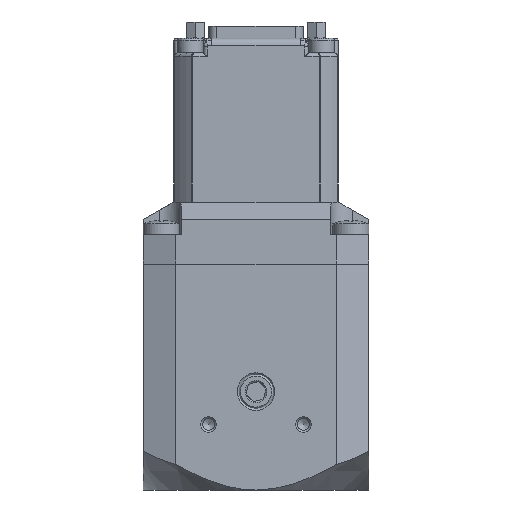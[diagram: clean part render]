
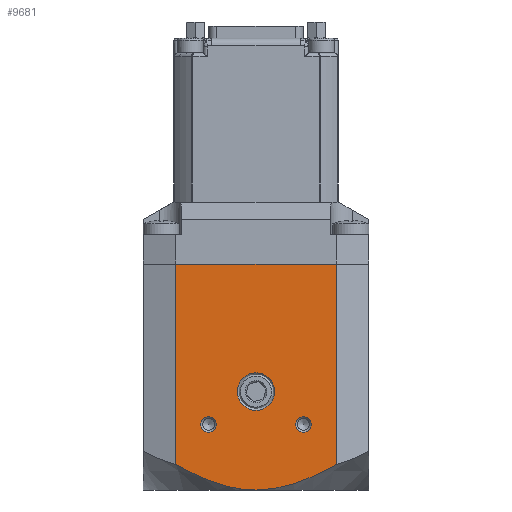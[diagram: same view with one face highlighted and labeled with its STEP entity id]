
A CAD part, front view. The second image highlights one B-rep face of the part: STEP entity #9681.
In plain terms, the highlighted planar face has unit normal (0, -1, 0).
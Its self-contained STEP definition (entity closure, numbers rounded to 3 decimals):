
#113=(
BOUNDED_CURVE()
B_SPLINE_CURVE(2,(#15410,#15411,#15412),.UNSPECIFIED.,.F.,.F.)
B_SPLINE_CURVE_WITH_KNOTS((3,3),(1.772,4.577),
 .UNSPECIFIED.)
CURVE()
GEOMETRIC_REPRESENTATION_ITEM()
RATIONAL_B_SPLINE_CURVE((1.071,1.092,1.))
REPRESENTATION_ITEM('')
);
#114=(
BOUNDED_CURVE()
B_SPLINE_CURVE(2,(#15414,#15415,#15416),.UNSPECIFIED.,.F.,.F.)
B_SPLINE_CURVE_WITH_KNOTS((3,3),(4.577,7.382),
 .UNSPECIFIED.)
CURVE()
GEOMETRIC_REPRESENTATION_ITEM()
RATIONAL_B_SPLINE_CURVE((1.,1.092,1.071))
REPRESENTATION_ITEM('')
);
#214=FACE_BOUND('',#2240,.T.);
#215=FACE_BOUND('',#2241,.T.);
#216=FACE_BOUND('',#2242,.T.);
#454=CIRCLE('',#10435,5.15);
#455=CIRCLE('',#10436,5.15);
#456=CIRCLE('',#10437,2.15);
#457=CIRCLE('',#10438,2.15);
#458=CIRCLE('',#10439,2.15);
#459=CIRCLE('',#10440,2.15);
#1344=PLANE('',#10434);
#1683=FACE_OUTER_BOUND('',#2239,.T.);
#2239=EDGE_LOOP('',(#7123,#7124,#7125,#7126,#7127));
#2240=EDGE_LOOP('',(#7128,#7129));
#2241=EDGE_LOOP('',(#7130,#7131));
#2242=EDGE_LOOP('',(#7132,#7133));
#2832=LINE('',#15395,#3625);
#2839=LINE('',#15408,#3632);
#2840=LINE('',#15417,#3633);
#3625=VECTOR('',#11629,10.);
#3632=VECTOR('',#11638,10.);
#3633=VECTOR('',#11639,10.);
#4598=VERTEX_POINT('',#15393);
#4599=VERTEX_POINT('',#15394);
#4604=VERTEX_POINT('',#15407);
#4605=VERTEX_POINT('',#15409);
#4606=VERTEX_POINT('',#15413);
#4607=VERTEX_POINT('',#15418);
#4608=VERTEX_POINT('',#15419);
#4609=VERTEX_POINT('',#15422);
#4610=VERTEX_POINT('',#15423);
#4611=VERTEX_POINT('',#15426);
#4612=VERTEX_POINT('',#15427);
#5593=EDGE_CURVE('',#4598,#4599,#2832,.T.);
#5600=EDGE_CURVE('',#4604,#4599,#2839,.T.);
#5601=EDGE_CURVE('',#4604,#4605,#113,.T.);
#5602=EDGE_CURVE('',#4605,#4606,#114,.T.);
#5603=EDGE_CURVE('',#4606,#4598,#2840,.T.);
#5604=EDGE_CURVE('',#4607,#4608,#454,.T.);
#5605=EDGE_CURVE('',#4608,#4607,#455,.T.);
#5606=EDGE_CURVE('',#4609,#4610,#456,.T.);
#5607=EDGE_CURVE('',#4610,#4609,#457,.T.);
#5608=EDGE_CURVE('',#4611,#4612,#458,.T.);
#5609=EDGE_CURVE('',#4612,#4611,#459,.T.);
#7123=ORIENTED_EDGE('',*,*,#5593,.T.);
#7124=ORIENTED_EDGE('',*,*,#5600,.F.);
#7125=ORIENTED_EDGE('',*,*,#5601,.T.);
#7126=ORIENTED_EDGE('',*,*,#5602,.T.);
#7127=ORIENTED_EDGE('',*,*,#5603,.T.);
#7128=ORIENTED_EDGE('',*,*,#5604,.T.);
#7129=ORIENTED_EDGE('',*,*,#5605,.T.);
#7130=ORIENTED_EDGE('',*,*,#5606,.T.);
#7131=ORIENTED_EDGE('',*,*,#5607,.T.);
#7132=ORIENTED_EDGE('',*,*,#5608,.T.);
#7133=ORIENTED_EDGE('',*,*,#5609,.T.);
#9681=ADVANCED_FACE('',(#1683,#214,#215,#216),#1344,.T.);
#10434=AXIS2_PLACEMENT_3D('',#15406,#11636,#11637);
#10435=AXIS2_PLACEMENT_3D('',#15420,#11640,#11641);
#10436=AXIS2_PLACEMENT_3D('',#15421,#11642,#11643);
#10437=AXIS2_PLACEMENT_3D('',#15424,#11644,#11645);
#10438=AXIS2_PLACEMENT_3D('',#15425,#11646,#11647);
#10439=AXIS2_PLACEMENT_3D('',#15428,#11648,#11649);
#10440=AXIS2_PLACEMENT_3D('',#15429,#11650,#11651);
#11629=DIRECTION('',(-1.,0.,0.));
#11636=DIRECTION('center_axis',(0.,-1.,0.));
#11637=DIRECTION('ref_axis',(0.,0.,1.));
#11638=DIRECTION('',(0.,0.,1.));
#11639=DIRECTION('',(0.,0.,1.));
#11640=DIRECTION('center_axis',(0.,1.,0.));
#11641=DIRECTION('ref_axis',(0.,0.,-1.));
#11642=DIRECTION('center_axis',(0.,1.,0.));
#11643=DIRECTION('ref_axis',(0.,0.,-1.));
#11644=DIRECTION('center_axis',(0.,1.,0.));
#11645=DIRECTION('ref_axis',(0.,0.,-1.));
#11646=DIRECTION('center_axis',(0.,1.,0.));
#11647=DIRECTION('ref_axis',(0.,0.,-1.));
#11648=DIRECTION('center_axis',(0.,1.,0.));
#11649=DIRECTION('ref_axis',(0.,0.,-1.));
#11650=DIRECTION('center_axis',(0.,1.,0.));
#11651=DIRECTION('ref_axis',(0.,0.,-1.));
#15393=CARTESIAN_POINT('',(22.,-31.,0.));
#15394=CARTESIAN_POINT('',(-22.,-31.,0.));
#15395=CARTESIAN_POINT('',(31.,-31.,0.));
#15406=CARTESIAN_POINT('Origin',(22.,-31.,-62.));
#15407=CARTESIAN_POINT('',(-22.,-31.,-54.987));
#15408=CARTESIAN_POINT('',(-22.,-31.,-62.));
#15409=CARTESIAN_POINT('',(0.,-31.,-62.));
#15410=CARTESIAN_POINT('Ctrl Pts',(-22.,-31.,-54.987));
#15411=CARTESIAN_POINT('Ctrl Pts',(-9.882,-31.,-62.));
#15412=CARTESIAN_POINT('Ctrl Pts',(0.,-31.,-62.));
#15413=CARTESIAN_POINT('',(22.,-31.,-54.987));
#15414=CARTESIAN_POINT('Ctrl Pts',(0.,-31.,-62.));
#15415=CARTESIAN_POINT('Ctrl Pts',(9.882,-31.,-62.));
#15416=CARTESIAN_POINT('Ctrl Pts',(22.,-31.,-54.987));
#15417=CARTESIAN_POINT('',(22.,-31.,-62.));
#15418=CARTESIAN_POINT('',(0.,-31.,-40.15));
#15419=CARTESIAN_POINT('',(0.,-31.,-29.85));
#15420=CARTESIAN_POINT('Origin',(0.,-31.,-35.));
#15421=CARTESIAN_POINT('Origin',(0.,-31.,-35.));
#15422=CARTESIAN_POINT('',(13.,-31.,-46.15));
#15423=CARTESIAN_POINT('',(13.,-31.,-41.85));
#15424=CARTESIAN_POINT('Origin',(13.,-31.,-44.));
#15425=CARTESIAN_POINT('Origin',(13.,-31.,-44.));
#15426=CARTESIAN_POINT('',(-13.,-31.,-46.15));
#15427=CARTESIAN_POINT('',(-13.,-31.,-41.85));
#15428=CARTESIAN_POINT('Origin',(-13.,-31.,-44.));
#15429=CARTESIAN_POINT('Origin',(-13.,-31.,-44.));
